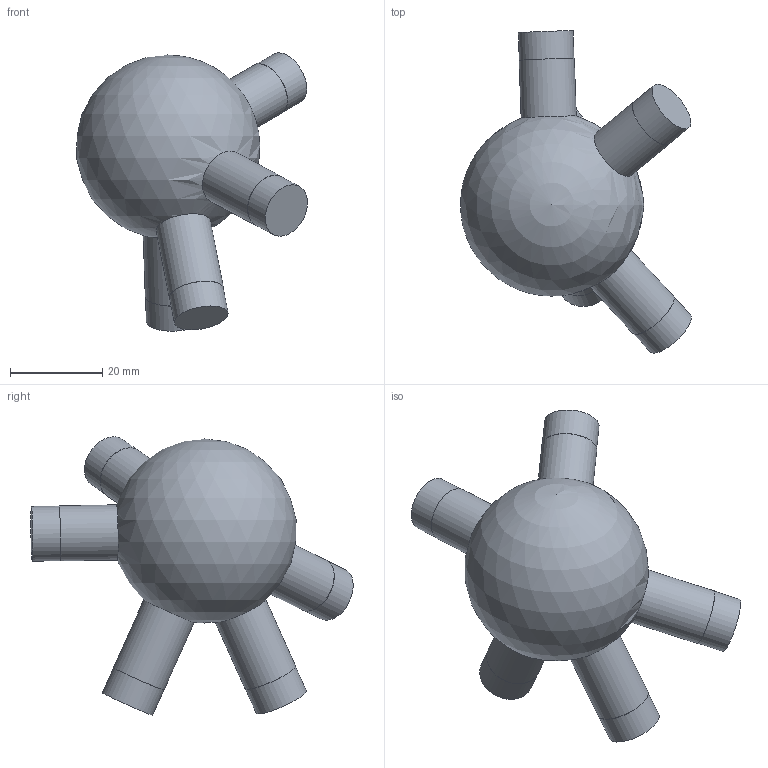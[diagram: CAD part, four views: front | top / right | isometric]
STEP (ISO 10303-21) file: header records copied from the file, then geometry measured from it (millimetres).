
FILE_DESCRIPTION(('Open CASCADE Model'),'2;1');
FILE_NAME('Open CASCADE Shape Model','2026-10-21T12:47:57',('Author'),( 'Open CASCADE'),'Open CASCADE STEP processor 7.9','Open CASCADE 7.9' ,'Unknown');
FILE_SCHEMA(('AUTOMOTIVE_DESIGN { 1 0 10303 214 1 1 1 1 }'));
Length unit declared in the file: millimetre
Products named in the file (1): Open CASCADE STEP translator 7.9 29
Bounding box: 50.2 x 70.07 x 60.52 mm (x, y, z)
Volume: 44736 mm3; surface area: 8852 mm2
Topology: 1 solids, 1 shells, 21 faces, 33 edges, 22 vertices
Faces by surface type: cylinder 10, plane 10, sphere 1
Full cylindrical faces by diameter (mm): 11.9 x5, 12 x5
Entity records: 1234 total; most frequent: CARTESIAN_POINT 509, DIRECTION 149, ORIENTED_EDGE 60, PCURVE 60, DEFINITIONAL_REPRESENTATION 60, LINE 50, VECTOR 50, AXIS2_PLACEMENT_3D 42
